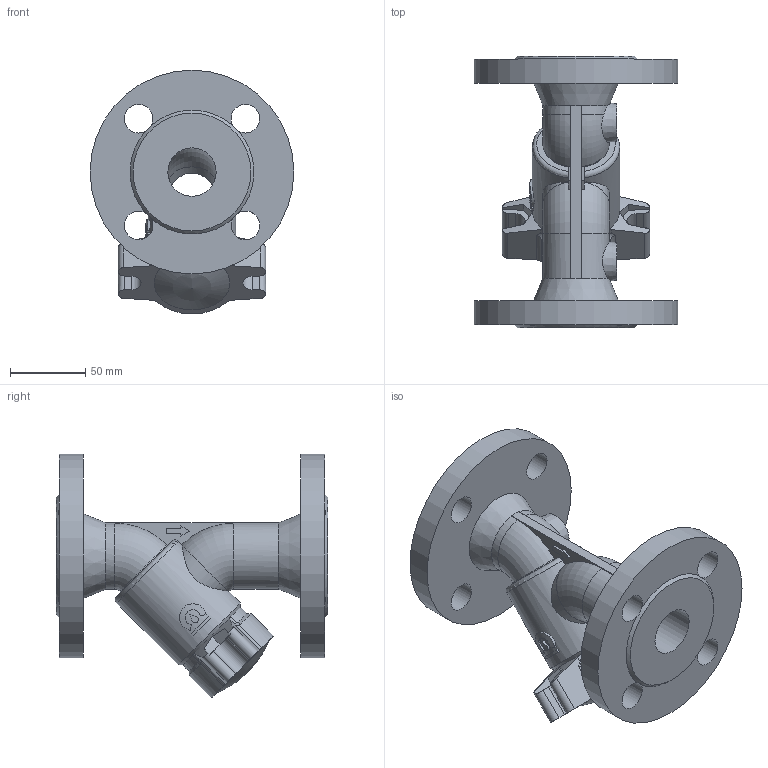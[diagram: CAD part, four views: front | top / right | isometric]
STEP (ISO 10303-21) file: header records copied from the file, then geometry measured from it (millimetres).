
FILE_DESCRIPTION(('STEP AP203'), '1');
FILE_NAME('Ôèëüòð ñåò÷àòûé ôëàíöåâûé 021Y.M DN32 PN10_PN16', '', ('UNSPECIFIED'), ('UNSPECIFIED'), 'ASCON STEP Converter 1.6', 'ASCON Math Kernel', '');
FILE_SCHEMA(('CONFIG_CONTROL_DESIGN'));
Length unit declared in the file: millimetre
Bounding box: 135 x 180 x 161.42 mm (x, y, z)
Volume: 659847.3 mm3; surface area: 138328.1 mm2
Topology: 1 solids, 2 shells, 137 faces, 374 edges, 244 vertices
Faces by surface type: plane 63, cylinder 52, cone 12, torus 5, bspline 4, sphere 1
Full cylindrical faces by diameter (mm): 19 x8, 32 x4, 40 x2, 46 x1, 58 x1, 135 x2
Entity records: 9068 total; most frequent: CARTESIAN_POINT 4643, ORIENTED_EDGE 684, DIRECTION 640, EDGE_CURVE 342, AXIS2_PLACEMENT_3D 251, VERTEX_POINT 242, EDGE_LOOP 188, FACE_BOUND 149
